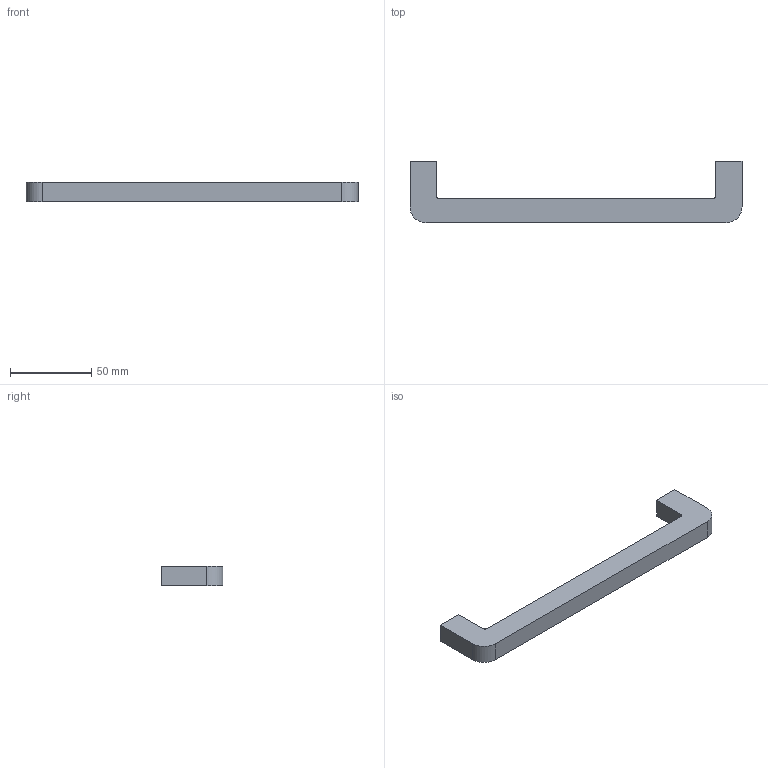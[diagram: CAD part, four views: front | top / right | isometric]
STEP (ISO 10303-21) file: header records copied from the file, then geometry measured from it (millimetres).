
FILE_DESCRIPTION( ( '' ), '1' );
FILE_NAME( 'C:/Documents and Settings/Nikhil/Desktop/Nik/Done/9070737.stp', '2013-10-24T06:03:56', ( '' ), ( '' ), ' ', ' ', ' ' );
FILE_SCHEMA( ( 'automotive_design' ) );
Length unit declared in the file: millimetre
Products named in the file (1): 1
Bounding box: 204 x 38 x 12 mm (x, y, z)
Volume: 44856.5 mm3; surface area: 13947 mm2
Topology: 1 solids, 1 shells, 20 faces, 48 edges, 32 vertices
Faces by surface type: plane 12, cylinder 8
Entity records: 1172 total; most frequent: DIRECTION 106, STYLED_ITEM 101, PRESENTATION_STYLE_ASSIGNMENT 101, CARTESIAN_POINT 101, COLOUR_RGB 101, ORIENTED_EDGE 96, EDGE_CURVE 48, CURVE_STYLE 48
